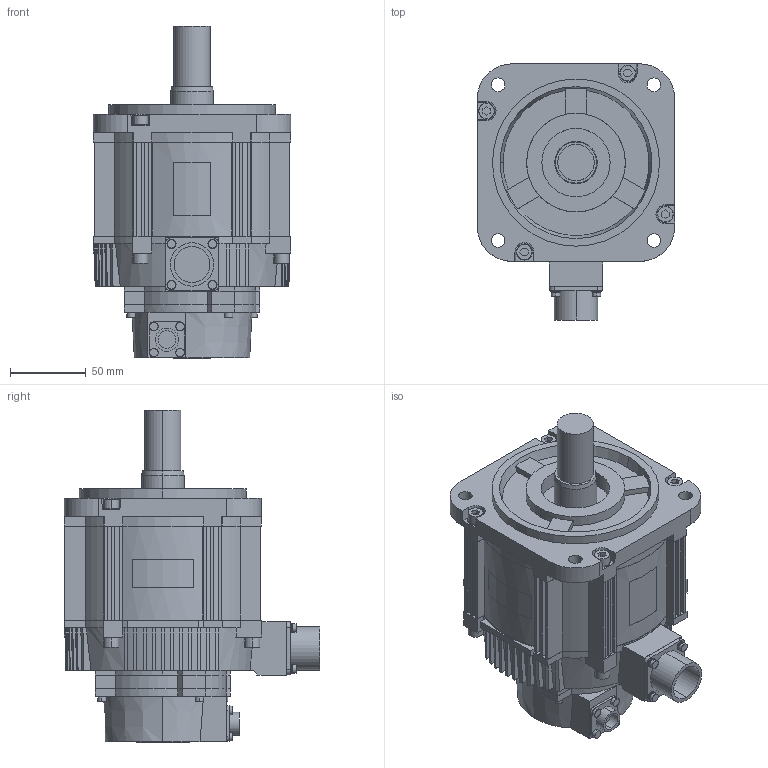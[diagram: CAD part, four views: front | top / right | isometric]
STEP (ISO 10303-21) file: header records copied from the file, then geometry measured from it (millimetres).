
FILE_DESCRIPTION (( 'STEP AP203' ), '1' );
FILE_NAME ('sgm7g_13a6a21.STEP', '2016-11-12T04:50:35', ( '匠エンジニアリング山之内' ), ( 'TAKUMI-Engniaring' ), 'SwSTEP 2.0', 'SolidWorks 2006303', '' );
FILE_SCHEMA (( 'CONFIG_CONTROL_DESIGN' ));
Length unit declared in the file: millimetre
Products named in the file (1): sgm7g_13a6a21
Bounding box: 130 x 168.49 x 218.6 mm (x, y, z)
Volume: 1872739.8 mm3; surface area: 146625.3 mm2
Topology: 1 solids, 1 shells, 801 faces, 2108 edges, 1376 vertices
Faces by surface type: plane 521, cylinder 192, cone 88
Entity records: 25223 total; most frequent: CARTESIAN_POINT 5054, ORIENTED_EDGE 4216, DIRECTION 4178, EDGE_CURVE 2108, AXIS2_PLACEMENT_3D 1430, VERTEX_POINT 1376, LINE 1318, VECTOR 1318
